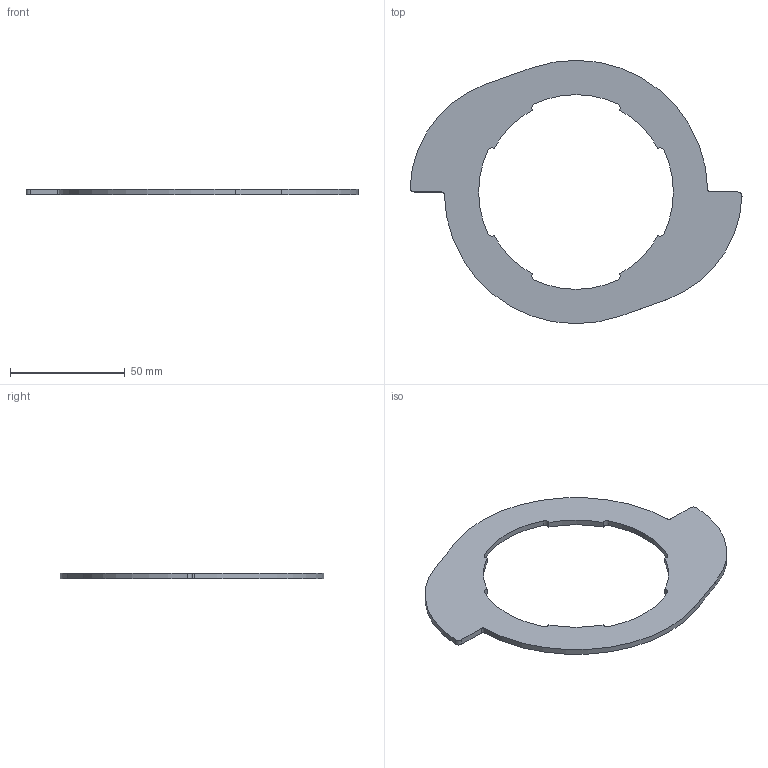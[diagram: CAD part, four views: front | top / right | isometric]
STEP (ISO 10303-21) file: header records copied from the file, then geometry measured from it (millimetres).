
FILE_DESCRIPTION((''),'2;1');
FILE_NAME('284996','2022-10-11T06:30:15',('vmorco'),(''),'CREO PARAMETRIC BY PTC INC, 2020454','CREO PARAMETRIC BY PTC INC, 2020454','');
FILE_SCHEMA(('AUTOMOTIVE_DESIGN { 1 0 10303 214 1 1 1 1 }'));
Length unit declared in the file: millimetre
Products named in the file (1): 284996
Bounding box: 144.91 x 115 x 2.5 mm (x, y, z)
Volume: 15506.3 mm3; surface area: 14114.1 mm2
Topology: 1 solids, 1 shells, 30 faces, 84 edges, 56 vertices
Faces by surface type: cylinder 24, plane 6
Entity records: 1071 total; most frequent: DIRECTION 192, CARTESIAN_POINT 172, ORIENTED_EDGE 168, EDGE_CURVE 84, AXIS2_PLACEMENT_3D 78, VERTEX_POINT 56, CIRCLE 48, VECTOR 36
